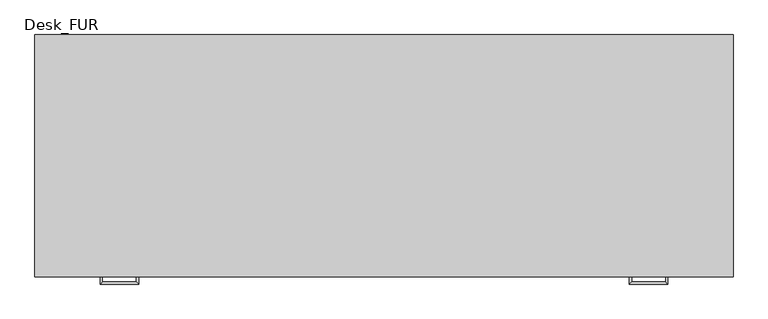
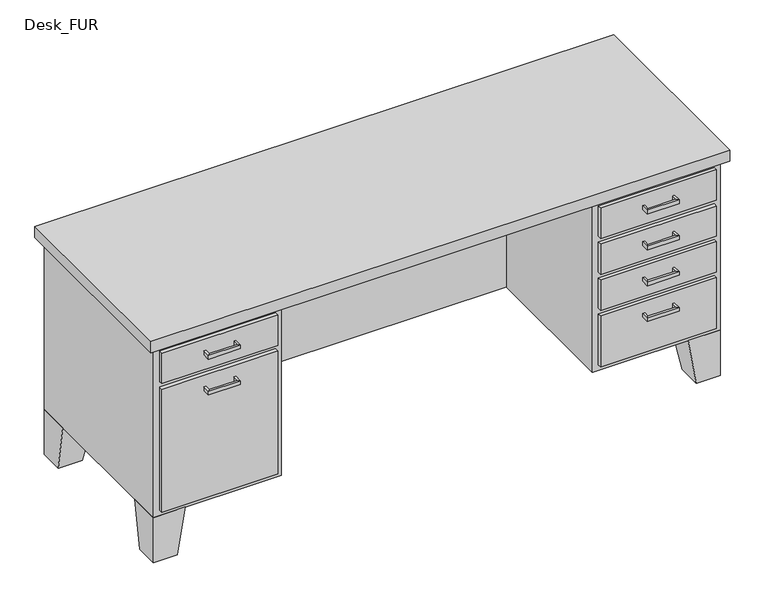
"""IFC4 building model written with IfcOpenShell, lengths in millimetres: furniture geometry, Desk_FUR : 1800 x 600  mm 2."""

import ifcopenshell
import ifcopenshell.guid

model = None  # the IFC model being written
_history = None  # IfcOwnerHistory: only IFC2X3 demands one
_inside = {}  # id of a spatial element -> (the spatial element, [elements in it])
_under = {}  # id of a project, library or spatial element -> (it, [spatial elements below it])
_declared = {}  # id of a project -> (the project, [libraries it declares])
_typed = {}  # id of a type object -> (the type object, [elements of that type])
_made_of = {}  # id of a material, layer set ... -> (it, [elements and type objects made of it])


def new_model(schema):
    """Start an empty IFC model of exactly this schema.

    Asked for "IFC4X3", IfcOpenShell would pick the latest addendum, in which some entities
    have other attributes; the version numbers below select the first issue.
    IFC2X3 requires an IfcOwnerHistory on every rooted entity: one is made here for all.
    """
    global model, _history
    if schema == "IFC4X3":
        model = ifcopenshell.file(schema_version=(4, 3, 0, 0))
    else:
        model = ifcopenshell.file(schema=schema)
    _inside.clear()
    _under.clear()
    _declared.clear()
    _typed.clear()
    _made_of.clear()
    _history = None
    if model.schema == "IFC2X3":
        org = make("IfcOrganization", Name="unknown")
        user = make(
            "IfcPersonAndOrganization",
            ThePerson=make("IfcPerson", FamilyName="unknown"),
            TheOrganization=org,
        )
        app = make(
            "IfcApplication",
            ApplicationDeveloper=org,
            Version="unknown",
            ApplicationFullName="unknown",
            ApplicationIdentifier="unknown",
        )
        _history = make(
            "IfcOwnerHistory",
            OwningUser=user,
            OwningApplication=app,
            ChangeAction="ADDED",
            CreationDate=0,
        )
    return model


def make(cls, **values):
    """One entity of the class cls with the attributes given. An attribute that is None is left unset."""
    return model.create_entity(
        cls, **{name: value for name, value in values.items() if value is not None}
    )


def rooted(cls, **values):
    """An entity with a GlobalId (a new one), such as an element, a storey or a relation."""
    return make(cls, GlobalId=ifcopenshell.guid.new(), OwnerHistory=_history, **values)


def si_unit(unit_type, name, prefix=None):
    """IfcSIUnit, for example si_unit("LENGTHUNIT", "METRE", prefix="MILLI")."""
    return make("IfcSIUnit", UnitType=unit_type, Prefix=prefix, Name=name)


def assignment(units):
    """IfcUnitAssignment: the units of a project."""
    return None if units is None else make("IfcUnitAssignment", Units=units)


def point(xyz):
    """IfcCartesianPoint."""
    return None if xyz is None else make("IfcCartesianPoint", Coordinates=xyz)


def direction(xyz):
    """IfcDirection."""
    return None if xyz is None else make("IfcDirection", DirectionRatios=xyz)


def frame(location, z_axis=None, x_axis=None):
    """IfcAxis2Placement3D, a coordinate frame: its origin and axes. An axis left out is left unset."""
    return make(
        "IfcAxis2Placement3D",
        Location=point(location),
        Axis=direction(z_axis),
        RefDirection=direction(x_axis),
    )


def origin():
    """The frame at (0, 0, 0) with its axes left unset."""
    return frame((0.0, 0.0, 0.0))


def place(relative_to, where):
    """IfcLocalPlacement: puts the frame where relative to a parent placement (None: the world)."""
    return make(
        "IfcLocalPlacement", PlacementRelTo=relative_to, RelativePlacement=where
    )


def context(
    kind, dimensions, precision=None, world=None, true_north=None, identifier=None
):
    """IfcGeometricRepresentationContext, for example the 3D "Model" context."""
    return make(
        "IfcGeometricRepresentationContext",
        ContextIdentifier=identifier,
        ContextType=kind,
        CoordinateSpaceDimension=dimensions,
        Precision=precision,
        WorldCoordinateSystem=world,
        TrueNorth=true_north,
    )


def project(units=None, contexts=None):
    """IfcProject with its units and contexts."""
    return rooted(
        "IfcProject",
        Name="project",
        RepresentationContexts=contexts,
        UnitsInContext=assignment(units),
    )


def spatial(cls, under=None, at=None, **own):
    """A site, building, storey or space (cls), placed at a placement, below another one or the project."""
    s = rooted(cls, ObjectPlacement=at, **own)
    if under is not None:
        _under.setdefault(under.id(), (under, []))[1].append(s)
    return s


def polyline(points):
    """IfcPolyline through the points."""
    return make("IfcPolyline", Points=[point(p) for p in points])


def outline(outer, holes=None, kind="AREA"):
    """IfcArbitraryClosedProfileDef: a profile drawn as a closed curve; with holes, ...WithVoids."""
    if holes is None:
        return make("IfcArbitraryClosedProfileDef", ProfileType=kind, OuterCurve=outer)
    return make(
        "IfcArbitraryProfileDefWithVoids",
        ProfileType=kind,
        OuterCurve=outer,
        InnerCurves=holes,
    )


def extrude(swept, where, along, depth):
    """IfcExtrudedAreaSolid: the profile swept, set in the frame where, extruded along a direction by depth."""
    return make(
        "IfcExtrudedAreaSolid",
        SweptArea=swept,
        Position=where,
        ExtrudedDirection=direction(along),
        Depth=depth,
    )


def faces_of(points, faces, orient=None, outer=None):
    """IfcFace entities. A face is a list of loops; a loop is a list of indices into points, from 0.

    orient and outer hold one flag for each loop. By default every Orientation is true, the
    first loop of a face is its IfcFaceOuterBound and the others are IfcFaceBound.
    """
    made = []
    for i, loops in enumerate(faces):
        bounds = []
        for j, loop in enumerate(loops):
            is_outer = j == 0 if outer is None else outer[i][j]
            bounds.append(
                make(
                    "IfcFaceOuterBound" if is_outer else "IfcFaceBound",
                    Bound=make("IfcPolyLoop", Polygon=[points[k] for k in loop]),
                    Orientation=True if orient is None else orient[i][j],
                )
            )
        made.append(make("IfcFace", Bounds=bounds))
    return made


def faceted_brep(points, faces, orient=None, outer=None, voids=None):
    """IfcFacetedBrep: a solid bounded by flat faces; with voids (closed shells), ...WithVoids."""
    shared = [point(p) for p in points]
    hull = make("IfcClosedShell", CfsFaces=faces_of(shared, faces, orient, outer))
    if voids is None:
        return make("IfcFacetedBrep", Outer=hull)
    return make(
        "IfcFacetedBrepWithVoids",
        Outer=hull,
        Voids=[
            make(cls, CfsFaces=faces_of(shared, fs, o, b)) for cls, fs, o, b in voids
        ],
    )


def shape(context_of_items, identifier, shape_type, items):
    """IfcShapeRepresentation: the items that make up one representation, for example the "Body"."""
    return make(
        "IfcShapeRepresentation",
        ContextOfItems=context_of_items,
        RepresentationIdentifier=identifier,
        RepresentationType=shape_type,
        Items=items,
    )


def source(mapping_origin, context_of_items, identifier, shape_type, items):
    """IfcRepresentationMap: a shape defined once, which mapped items show again and again."""
    return make(
        "IfcRepresentationMap",
        MappingOrigin=mapping_origin,
        MappedRepresentation=shape(context_of_items, identifier, shape_type, items),
    )


def transform(
    local_origin,
    x_axis=None,
    y_axis=None,
    z_axis=None,
    scale=None,
    scale2=None,
    scale3=None,
    uniform=True,
):
    """IfcCartesianTransformationOperator3D, or its non-uniform kind. x_axis, y_axis, z_axis: its Axis1, 2, 3."""
    if uniform:
        return make(
            "IfcCartesianTransformationOperator3D",
            Axis1=direction(x_axis),
            Axis2=direction(y_axis),
            LocalOrigin=point(local_origin),
            Scale=scale,
            Axis3=direction(z_axis),
        )
    return make(
        "IfcCartesianTransformationOperator3DnonUniform",
        Axis1=direction(x_axis),
        Axis2=direction(y_axis),
        LocalOrigin=point(local_origin),
        Scale=scale,
        Axis3=direction(z_axis),
        Scale2=scale2,
        Scale3=scale3,
    )


def mapped(mapping_source, mapping_target):
    """IfcMappedItem: shows the shape of a source again, moved by a transform."""
    return make(
        "IfcMappedItem", MappingSource=mapping_source, MappingTarget=mapping_target
    )


def made_of(thing, what):
    """Note that an element or type object is made of a material, layer set ...; save() writes the relation."""
    if what is not None:
        _made_of.setdefault(what.id(), (what, []))[1].append(thing)
    return thing


def element(
    cls,
    number,
    at=None,
    inside=None,
    cuts=None,
    type_object=None,
    material=None,
    context=None,
    identifier="Body",
    shape_type=None,
    held_by="IfcProductDefinitionShape",
    body=None,
    shapes=None,
    **own,
):
    """One element of the class cls, such as IfcWall. Its Tag is "e" and its number.

    at: its placement. inside: the storey or other place that contains it. cuts: it is an
    opening in that element (IfcRelVoidsElement). A single representation is given by context,
    identifier, shape_type and body (its items); several are given by shapes. held_by: the class
    of the entity that holds the representations. save() writes the other relations.
    """
    e = rooted(cls, Tag="e%d" % number, ObjectPlacement=at, **own)
    if body is not None:
        shapes = [shape(context, identifier, shape_type, body)]
    if shapes is not None:
        e.Representation = make(held_by, Representations=shapes)
    if inside is not None:
        _inside.setdefault(inside.id(), (inside, []))[1].append(e)
    if cuts is not None:
        rooted(
            "IfcRelVoidsElement", RelatingBuildingElement=cuts, RelatedOpeningElement=e
        )
    if type_object is not None:
        _typed.setdefault(type_object.id(), (type_object, []))[1].append(e)
    return made_of(e, material)


def aggregate(whole, parts):
    """IfcRelAggregates: a whole, such as a stair, and the parts it consists of."""
    return rooted("IfcRelAggregates", RelatingObject=whole, RelatedObjects=parts)


def save(model, path):
    """Write the relations noted so far, then the file.

    IfcRelAggregates (storeys below a building ...), IfcRelContainedInSpatialStructure (elements
    in a storey), IfcRelDefinesByType, IfcRelAssociatesMaterial and IfcRelDeclares: one each for
    every whole, place, type object, material and project.
    """
    for whole, parts in _under.values():
        aggregate(whole, parts)
    for where, things in _inside.values():
        rooted(
            "IfcRelContainedInSpatialStructure",
            RelatedElements=things,
            RelatingStructure=where,
        )
    for kind, things in _typed.values():
        rooted("IfcRelDefinesByType", RelatedObjects=things, RelatingType=kind)
    for what, things in _made_of.values():
        rooted("IfcRelAssociatesMaterial", RelatedObjects=things, RelatingMaterial=what)
    for by, libraries in _declared.values():
        rooted("IfcRelDeclares", RelatingContext=by, RelatedDefinitions=libraries)
    model.write(path)


def desk_fur_ff340581(model_context):
    return source(origin(), model_context, "Body", "SolidModel", [
        extrude(outline(polyline([(-118.95, 81.0), (249.35, 81.0), (249.35, 68.3), (-118.95, 68.3), (-118.95, 81.0)])), frame((0.0, 0.0, 603.25), z_axis=(0.0, 0.0, 1.0), x_axis=(1.0, 0.0, 0.0)), (0.0, 0.0, 1.0), 101.6),
        extrude(outline(polyline([(-118.95, 81.0), (249.35, 81.0), (249.35, 68.3), (-118.95, 68.3), (-118.95, 81.0)])), frame((0.0, 0.0, 171.05), z_axis=(0.0, 0.0, 1.0), x_axis=(1.0, 0.0, 0.0)), (0.0, 0.0, 1.0), 413.15),
        extrude(outline(polyline([(1274.65, 81.0), (1642.95, 81.0), (1642.95, 68.3), (1274.65, 68.3), (1274.65, 81.0)])), frame((0.0, 0.0, 602.85), z_axis=(0.0, 0.0, 1.0), x_axis=(1.0, 0.0, 0.0)), (0.0, 0.0, 1.0), 102.0),
        extrude(outline(polyline([(1274.65, 81.0), (1642.95, 81.0), (1642.95, 68.3), (1274.65, 68.3), (1274.65, 81.0)])), frame((0.0, 0.0, 171.05), z_axis=(0.0, 0.0, 1.0), x_axis=(1.0, 0.0, 0.0)), (0.0, 0.0, 1.0), 171.45),
        extrude(outline(polyline([(1274.65, 81.0), (1642.95, 81.0), (1642.95, 68.3), (1274.65, 68.3), (1274.65, 81.0)])), frame((0.0, 0.0, 482.2), z_axis=(0.0, 0.0, 1.0), x_axis=(1.0, 0.0, 0.0)), (0.0, 0.0, 1.0), 101.6),
        extrude(outline(polyline([(1274.65, 81.0), (1642.95, 81.0), (1642.95, 68.3), (1274.65, 68.3), (1274.65, 81.0)])), frame((0.0, 0.0, 361.55), z_axis=(0.0, 0.0, 1.0), x_axis=(1.0, 0.0, 0.0)), (0.0, 0.0, 1.0), 101.6),
        faceted_brep([(-36.4, 81.0, 152.0), (-36.4, 182.6, 152.0), (-138.0, 182.6, 152.0), (-138.0, 81.0, 152.0), (-61.8, 81.0, 0.0), (-138.0, 81.0, 0.0), (-138.0, 157.2, 0.0), (-61.8, 157.2, 0.0)], [[[0, 1, 2, 3]], [[4, 5, 6, 7]], [[4, 7, 1, 0]], [[7, 6, 2, 1]], [[6, 5, 3, 2]], [[5, 4, 0, 3]]]),
        faceted_brep([(-36.4, 681.0, 152.0), (-138.0, 681.0, 152.0), (-138.0, 579.4, 152.0), (-36.4, 579.4, 152.0), (-61.8, 681.0, 0.0), (-61.8, 604.8, 0.0), (-138.0, 604.8, 0.0), (-138.0, 681.0, 0.0)], [[[0, 1, 2, 3]], [[4, 5, 6, 7]], [[4, 7, 1, 0]], [[7, 6, 2, 1]], [[6, 5, 3, 2]], [[5, 4, 0, 3]]]),
        faceted_brep([(1560.4, 681.0, 152.0), (1560.4, 579.4, 152.0), (1662.0, 579.4, 152.0), (1662.0, 681.0, 152.0), (1585.8, 681.0, 0.0), (1662.0, 681.0, 0.0), (1662.0, 604.8, 0.0), (1585.8, 604.8, 0.0)], [[[0, 1, 2, 3]], [[4, 5, 6, 7]], [[4, 7, 1, 0]], [[7, 6, 2, 1]], [[6, 5, 3, 2]], [[5, 4, 0, 3]]]),
        faceted_brep([(1560.4, 81.0, 152.0), (1662.0, 81.0, 152.0), (1662.0, 182.6, 152.0), (1560.4, 182.6, 152.0), (1585.8, 81.0, 0.0), (1585.8, 157.2, 0.0), (1662.0, 157.2, 0.0), (1662.0, 81.0, 0.0)], [[[0, 1, 2, 3]], [[4, 5, 6, 7]], [[4, 7, 1, 0]], [[7, 6, 2, 1]], [[6, 5, 3, 2]], [[5, 4, 0, 3]]]),
        extrude(outline(polyline([(-157.05, 61.95), (-157.05, 700.05), (1681.05, 700.05), (1681.05, 61.95), (-157.05, 61.95)])), frame((0.0, 0.0, 723.9), z_axis=(0.0, 0.0, 1.0), x_axis=(1.0, 0.0, 0.0)), (0.0, 0.0, 1.0), 38.1),
        extrude(outline(polyline([(1255.6, 81.0), (1255.6, 554.0), (268.4, 554.0), (268.4, 81.0), (-138.0, 81.0), (-138.0, 681.0), (1662.0, 681.0), (1662.0, 81.0), (1255.6, 81.0)])), frame((0.0, 0.0, 152.0), z_axis=(0.0, 0.0, 1.0), x_axis=(1.0, 0.0, 0.0)), (0.0, 0.0, 1.0), 571.9),
        faceted_brep([(20.75, 68.3, 546.1), (20.75, 68.3, 533.4), (14.4, 68.3, 533.4), (14.4, 68.3, 546.1), (20.75, 49.25, 546.1), (20.75, 49.25, 533.4), (14.4, 42.9, 533.4), (14.4, 42.9, 546.1), (109.65, 49.25, 546.1), (109.65, 49.25, 533.4), (116.0, 42.9, 533.4), (116.0, 42.9, 546.1), (109.65, 68.3, 546.1), (116.0, 68.3, 546.1), (116.0, 68.3, 533.4), (109.65, 68.3, 533.4)], [[[0, 1, 2, 3]], [[1, 0, 4, 5]], [[2, 1, 5, 6]], [[3, 2, 6, 7]], [[0, 3, 7, 4]], [[5, 4, 8, 9]], [[6, 5, 9, 10]], [[7, 6, 10, 11]], [[4, 7, 11, 8]], [[12, 13, 14, 15]], [[9, 8, 12, 15]], [[10, 9, 15, 14]], [[11, 10, 14, 13]], [[8, 11, 13, 12]]]),
        faceted_brep([(20.75, 68.3, 666.75), (20.75, 68.3, 654.05), (14.4, 68.3, 654.05), (14.4, 68.3, 666.75), (20.75, 49.25, 666.75), (20.75, 49.25, 654.05), (14.4, 42.9, 654.05), (14.4, 42.9, 666.75), (109.65, 49.25, 666.75), (109.65, 49.25, 654.05), (116.0, 42.9, 654.05), (116.0, 42.9, 666.75), (109.65, 68.3, 666.75), (116.0, 68.3, 666.75), (116.0, 68.3, 654.05), (109.65, 68.3, 654.05)], [[[0, 1, 2, 3]], [[1, 0, 4, 5]], [[2, 1, 5, 6]], [[3, 2, 6, 7]], [[0, 3, 7, 4]], [[5, 4, 8, 9]], [[6, 5, 9, 10]], [[7, 6, 10, 11]], [[4, 7, 11, 8]], [[12, 13, 14, 15]], [[9, 8, 12, 15]], [[10, 9, 15, 14]], [[11, 10, 14, 13]], [[8, 11, 13, 12]]]),
        faceted_brep([(1503.25, 68.3, 304.8), (1509.6, 68.3, 304.8), (1509.6, 68.3, 292.1), (1503.25, 68.3, 292.1), (1503.25, 49.25, 304.8), (1509.6, 42.9, 304.8), (1509.6, 42.9, 292.1), (1503.25, 49.25, 292.1), (1414.35, 49.25, 304.8), (1408.0, 42.9, 304.8), (1408.0, 42.9, 292.1), (1414.35, 49.25, 292.1), (1414.35, 68.3, 304.8), (1414.35, 68.3, 292.1), (1408.0, 68.3, 292.1), (1408.0, 68.3, 304.8)], [[[0, 1, 2, 3]], [[1, 0, 4, 5]], [[2, 1, 5, 6]], [[3, 2, 6, 7]], [[0, 3, 7, 4]], [[5, 4, 8, 9]], [[6, 5, 9, 10]], [[7, 6, 10, 11]], [[4, 7, 11, 8]], [[12, 13, 14, 15]], [[9, 8, 12, 15]], [[10, 9, 15, 14]], [[11, 10, 14, 13]], [[8, 11, 13, 12]]]),
        faceted_brep([(1503.25, 68.3, 425.45), (1509.6, 68.3, 425.45), (1509.6, 68.3, 412.75), (1503.25, 68.3, 412.75), (1503.25, 49.25, 425.45), (1509.6, 42.9, 425.45), (1509.6, 42.9, 412.75), (1503.25, 49.25, 412.75), (1414.35, 49.25, 425.45), (1408.0, 42.9, 425.45), (1408.0, 42.9, 412.75), (1414.35, 49.25, 412.75), (1414.35, 68.3, 425.45), (1414.35, 68.3, 412.75), (1408.0, 68.3, 412.75), (1408.0, 68.3, 425.45)], [[[0, 1, 2, 3]], [[1, 0, 4, 5]], [[2, 1, 5, 6]], [[3, 2, 6, 7]], [[0, 3, 7, 4]], [[5, 4, 8, 9]], [[6, 5, 9, 10]], [[7, 6, 10, 11]], [[4, 7, 11, 8]], [[12, 13, 14, 15]], [[9, 8, 12, 15]], [[10, 9, 15, 14]], [[11, 10, 14, 13]], [[8, 11, 13, 12]]]),
        faceted_brep([(1503.25, 68.3, 546.1), (1509.6, 68.3, 546.1), (1509.6, 68.3, 533.4), (1503.25, 68.3, 533.4), (1503.25, 49.25, 546.1), (1509.6, 42.9, 546.1), (1509.6, 42.9, 533.4), (1503.25, 49.25, 533.4), (1414.35, 49.25, 546.1), (1408.0, 42.9, 546.1), (1408.0, 42.9, 533.4), (1414.35, 49.25, 533.4), (1414.35, 68.3, 546.1), (1414.35, 68.3, 533.4), (1408.0, 68.3, 533.4), (1408.0, 68.3, 546.1)], [[[0, 1, 2, 3]], [[1, 0, 4, 5]], [[2, 1, 5, 6]], [[3, 2, 6, 7]], [[0, 3, 7, 4]], [[5, 4, 8, 9]], [[6, 5, 9, 10]], [[7, 6, 10, 11]], [[4, 7, 11, 8]], [[12, 13, 14, 15]], [[9, 8, 12, 15]], [[10, 9, 15, 14]], [[11, 10, 14, 13]], [[8, 11, 13, 12]]]),
        faceted_brep([(1503.25, 68.3, 666.75), (1509.6, 68.3, 666.75), (1509.6, 68.3, 654.05), (1503.25, 68.3, 654.05), (1503.25, 49.25, 666.75), (1509.6, 42.9, 666.75), (1509.6, 42.9, 654.05), (1503.25, 49.25, 654.05), (1414.35, 49.25, 666.75), (1408.0, 42.9, 666.75), (1408.0, 42.9, 654.05), (1414.35, 49.25, 654.05), (1414.35, 68.3, 666.75), (1414.35, 68.3, 654.05), (1408.0, 68.3, 654.05), (1408.0, 68.3, 666.75)], [[[0, 1, 2, 3]], [[1, 0, 4, 5]], [[2, 1, 5, 6]], [[3, 2, 6, 7]], [[0, 3, 7, 4]], [[5, 4, 8, 9]], [[6, 5, 9, 10]], [[7, 6, 10, 11]], [[4, 7, 11, 8]], [[12, 13, 14, 15]], [[9, 8, 12, 15]], [[10, 9, 15, 14]], [[11, 10, 14, 13]], [[8, 11, 13, 12]]]),
    ])


if __name__ == "__main__":
    model = new_model("IFC4")
    model_context = context("Model", 3, world=origin())
    ifc_project = project(units=[si_unit("LENGTHUNIT", "METRE", prefix="MILLI")], contexts=[model_context])
    site = spatial("IfcSite", under=ifc_project)
    building = spatial("IfcBuilding", under=site)
    placement = place(None, origin())
    desk_fur_shape = desk_fur_ff340581(model_context)
    element("IfcFurniture", 1, ObjectType="Desk_FUR : 1800 x 600  mm 2", at=placement, inside=building, context=model_context, shape_type="MappedRepresentation", body=[
        mapped(desk_fur_shape, transform((0.0, 0.0, 0.0), x_axis=(1.0, 0.0, 0.0), y_axis=(0.0, 1.0, 0.0), z_axis=(0.0, 0.0, 1.0))),
    ])
    save(model, "model.ifc")
